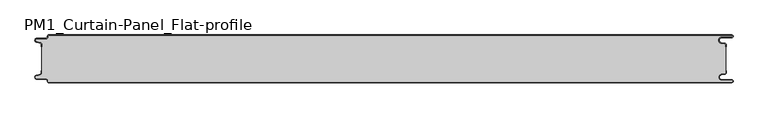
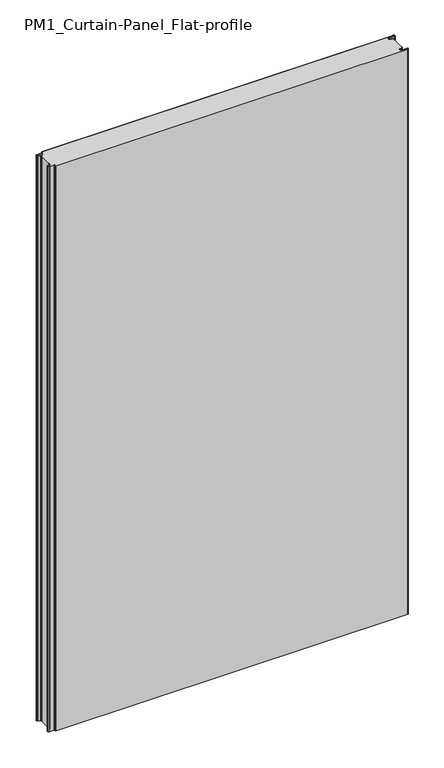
"""IFC4 building model written with IfcOpenShell, lengths in millimetres: plate geometry, PM1_Curtain-Panel_Flat-profile : ACH_PM1_Stone-wool-Panel_80M."""

from ifc_helpers import new_model, si_unit, point, frame_2d, origin, origin_with_axes, place, context, project, spatial, polyline, circle_curve, trimmed, segment, composite_curve, outline, extrude, source, transform, mapped, element, save


def pm1_curtain_panel_flat_profile_3b441832(model_context):
    return source(origin(), model_context, "Body", "SweptSolid", [
        extrude(outline(composite_curve([segment(polyline([(-562.4, 0.0), (583.1, 0.0)]), True, "CONTINUOUS"), segment(trimmed(circle_curve(frame_2d((583.1, -2.5)), 2.5), [point((583.1, 0.0))], [point((583.1, -5.0))], False, "CARTESIAN"), True, "CONTINUOUS"), segment(polyline([(583.1, -5.0), (566.1, -5.0)]), True, "CONTINUOUS"), segment(trimmed(circle_curve(frame_2d((566.1, -9.0)), 4.0), [point((566.1, -5.0))], [point((565.4054075, -12.939231))], True, "CARTESIAN"), True, "CONTINUOUS"), segment(polyline([(565.4054075, -12.939231), (571.8514851, -14.075848)]), True, "CONTINUOUS"), segment(trimmed(circle_curve(frame_2d((571.4, -16.636348)), 2.6), [point((571.8514851, -14.075848))], [point((574.0, -16.636348))], False, "CARTESIAN"), True, "CONTINUOUS"), segment(polyline([(574.0, -16.636348), (574.0, -20.0), (573.2, -20.0), (573.2, -16.636348)]), True, "CONTINUOUS"), segment(trimmed(circle_curve(frame_2d((571.4, -16.636348)), 1.8), [point((573.2, -16.636348))], [point((571.7125666, -14.863694))], True, "CARTESIAN"), True, "CONTINUOUS"), segment(polyline([(571.7125666, -14.863694), (565.266489, -13.7270771)]), True, "CONTINUOUS"), segment(trimmed(circle_curve(frame_2d((566.1, -9.0)), 4.8), [point((565.266489, -13.7270771))], [point((566.1, -4.2))], False, "CARTESIAN"), True, "CONTINUOUS"), segment(polyline([(566.1, -4.2), (583.1, -4.2)]), True, "CONTINUOUS"), segment(trimmed(circle_curve(frame_2d((583.1, -2.5)), 1.7), [point((583.1, -4.2))], [point((583.1, -0.8))], True, "CARTESIAN"), True, "CONTINUOUS"), segment(polyline([(583.1, -0.8), (-562.4, -0.8)]), True, "CONTINUOUS"), segment(trimmed(circle_curve(frame_2d((-562.4, -2.0)), 1.2), [point((-562.4, -0.8))], [point((-563.6, -2.0))], True, "CARTESIAN"), True, "CONTINUOUS"), segment(polyline([(-563.6, -2.0), (-563.6, -3.4)]), True, "CONTINUOUS"), segment(trimmed(circle_curve(frame_2d((-566.4, -3.4)), 2.8), [point((-563.6, -3.4))], [point((-566.4, -6.2))], False, "CARTESIAN"), True, "CONTINUOUS"), segment(polyline([(-566.4, -6.2), (-581.9, -6.2)]), True, "CONTINUOUS"), segment(trimmed(circle_curve(frame_2d((-581.9, -9.0)), 2.8), [point((-581.9, -6.2))], [point((-582.529863, -11.7282362))], True, "CARTESIAN"), True, "CONTINUOUS"), segment(polyline([(-582.529863, -11.7282362), (-576.370137, -13.150321)]), True, "CONTINUOUS"), segment(trimmed(circle_curve(frame_2d((-577.0, -15.878557)), 2.8), [point((-576.370137, -13.150321))], [point((-574.2, -15.878557))], False, "CARTESIAN"), True, "CONTINUOUS"), segment(polyline([(-574.2, -15.878557), (-574.2, -20.0), (-575.0, -20.0), (-575.0, -15.878557)]), True, "CONTINUOUS"), segment(trimmed(circle_curve(frame_2d((-577.0, -15.878557)), 2.0), [point((-575.0, -15.878557))], [point((-576.5500978, -13.9298169))], True, "CARTESIAN"), True, "CONTINUOUS"), segment(polyline([(-576.5500978, -13.9298169), (-582.7098239, -12.507732)]), True, "CONTINUOUS"), segment(trimmed(circle_curve(frame_2d((-581.9, -9.0)), 3.6), [point((-582.7098239, -12.507732))], [point((-581.9, -5.4))], False, "CARTESIAN"), True, "CONTINUOUS"), segment(polyline([(-581.9, -5.4), (-566.4, -5.4)]), True, "CONTINUOUS"), segment(trimmed(circle_curve(frame_2d((-566.4, -3.4)), 2.0), [point((-566.4, -5.4))], [point((-564.4, -3.4))], True, "CARTESIAN"), True, "CONTINUOUS"), segment(polyline([(-564.4, -3.4), (-564.4, -2.0)]), True, "CONTINUOUS"), segment(trimmed(circle_curve(frame_2d((-562.4, -2.0)), 2.0), [point((-564.4, -2.0))], [point((-562.4, 0.0))], False, "CARTESIAN"), True, "CONTINUOUS")], self_intersect=False)), origin_with_axes(), (0.0, 0.0, 1.0), 1945.7507136),
        extrude(outline(composite_curve([segment(polyline([(-574.2, -64.1214426), (-574.2, -15.8785573)]), True, "CONTINUOUS"), segment(trimmed(circle_curve(frame_2d((-577.0, -15.8785573)), 2.8), [point((-574.2, -15.8785573))], [point((-576.370137, -13.1503212))], True, "CARTESIAN"), True, "CONTINUOUS"), segment(polyline([(-576.370137, -13.1503212), (-582.5298631, -11.7282362)]), True, "CONTINUOUS"), segment(trimmed(circle_curve(frame_2d((-581.9, -9.0)), 2.8), [point((-582.5298631, -11.7282362))], [point((-581.9, -6.2))], False, "CARTESIAN"), True, "CONTINUOUS"), segment(polyline([(-581.9, -6.2), (-566.4000001, -6.2)]), True, "CONTINUOUS"), segment(trimmed(circle_curve(frame_2d((-566.4000001, -3.4)), 2.8), [point((-566.4000001, -6.2))], [point((-563.6000001, -3.4))], True, "CARTESIAN"), True, "CONTINUOUS"), segment(polyline([(-563.6000001, -3.4), (-563.6000001, -2.0)]), True, "CONTINUOUS"), segment(trimmed(circle_curve(frame_2d((-562.4000001, -2.0)), 1.2), [point((-563.6000001, -2.0))], [point((-562.4000001, -0.8))], False, "CARTESIAN"), True, "CONTINUOUS"), segment(polyline([(-562.4000001, -0.8), (583.1, -0.8)]), True, "CONTINUOUS"), segment(trimmed(circle_curve(frame_2d((583.1, -2.5)), 1.7), [point((583.1, -0.8))], [point((583.1, -4.2))], False, "CARTESIAN"), True, "CONTINUOUS"), segment(polyline([(583.1, -4.2), (566.1, -4.2)]), True, "CONTINUOUS"), segment(trimmed(circle_curve(frame_2d((566.1, -9.0)), 4.8), [point((566.1, -4.2))], [point((565.2664883, -13.7270771))], True, "CARTESIAN"), True, "CONTINUOUS"), segment(polyline([(565.2664883, -13.7270771), (571.7125668, -14.8636953)]), True, "CONTINUOUS"), segment(trimmed(circle_curve(frame_2d((571.4, -16.6363492)), 1.8), [point((571.7125668, -14.8636953))], [point((573.2, -16.6363492))], False, "CARTESIAN"), True, "CONTINUOUS"), segment(polyline([(573.2, -16.6363492), (573.2, -63.3636508)]), True, "CONTINUOUS"), segment(trimmed(circle_curve(frame_2d((571.4, -63.3636508)), 1.8), [point((573.2, -63.3636508))], [point((571.7125668, -65.1363047))], False, "CARTESIAN"), True, "CONTINUOUS"), segment(polyline([(571.7125668, -65.1363047), (565.2664883, -66.2729229)]), True, "CONTINUOUS"), segment(trimmed(circle_curve(frame_2d((566.1, -71.0)), 4.8), [point((565.2664883, -66.2729229))], [point((566.1, -75.8))], True, "CARTESIAN"), True, "CONTINUOUS"), segment(polyline([(566.1, -75.8), (583.1, -75.8)]), True, "CONTINUOUS"), segment(trimmed(circle_curve(frame_2d((583.1, -77.5)), 1.7), [point((583.1, -75.8))], [point((583.1, -79.2))], False, "CARTESIAN"), True, "CONTINUOUS"), segment(polyline([(583.1, -79.2), (-562.4000001, -79.2)]), True, "CONTINUOUS"), segment(trimmed(circle_curve(frame_2d((-562.4000001, -78.0)), 1.2), [point((-562.4000001, -79.2))], [point((-563.6000001, -78.0))], False, "CARTESIAN"), True, "CONTINUOUS"), segment(polyline([(-563.6000001, -78.0), (-563.6000001, -76.6)]), True, "CONTINUOUS"), segment(trimmed(circle_curve(frame_2d((-566.4000001, -76.6)), 2.8), [point((-563.6000001, -76.6))], [point((-566.4000001, -73.8))], True, "CARTESIAN"), True, "CONTINUOUS"), segment(polyline([(-566.4000001, -73.8), (-581.9, -73.8)]), True, "CONTINUOUS"), segment(trimmed(circle_curve(frame_2d((-581.9, -71.0)), 2.8), [point((-581.9, -73.8))], [point((-582.5298631, -68.2717638))], False, "CARTESIAN"), True, "CONTINUOUS"), segment(polyline([(-582.5298631, -68.2717638), (-576.370137, -66.8496788)]), True, "CONTINUOUS"), segment(trimmed(circle_curve(frame_2d((-577.0, -64.1214426)), 2.8), [point((-576.370137, -66.8496788))], [point((-574.2, -64.1214426))], True, "CARTESIAN"), True, "CONTINUOUS")], self_intersect=False)), origin_with_axes(), (0.0, 0.0, 1.0), 1945.7507136),
        extrude(outline(composite_curve([segment(polyline([(583.1, -80.0), (-562.4, -80.0)]), True, "CONTINUOUS"), segment(trimmed(circle_curve(frame_2d((-562.4, -78.0)), 2.0), [point((-562.4, -80.0))], [point((-564.4, -78.0))], False, "CARTESIAN"), True, "CONTINUOUS"), segment(polyline([(-564.4, -78.0), (-564.4, -76.6)]), True, "CONTINUOUS"), segment(trimmed(circle_curve(frame_2d((-566.4, -76.6)), 2.0), [point((-564.4, -76.6))], [point((-566.4, -74.6))], True, "CARTESIAN"), True, "CONTINUOUS"), segment(polyline([(-566.4, -74.6), (-581.9, -74.6)]), True, "CONTINUOUS"), segment(trimmed(circle_curve(frame_2d((-581.9, -71.0)), 3.6), [point((-581.9, -74.6))], [point((-582.7098239, -67.4922678))], False, "CARTESIAN"), True, "CONTINUOUS"), segment(polyline([(-582.7098239, -67.4922678), (-576.5500979, -66.070183)]), True, "CONTINUOUS"), segment(trimmed(circle_curve(frame_2d((-577.0, -64.121443)), 2.0), [point((-576.5500979, -66.070183))], [point((-575.0, -64.121443))], True, "CARTESIAN"), True, "CONTINUOUS"), segment(polyline([(-575.0, -64.121443), (-575.0, -60.0), (-574.2, -60.0), (-574.2, -64.121443)]), True, "CONTINUOUS"), segment(trimmed(circle_curve(frame_2d((-577.0, -64.121443)), 2.8), [point((-574.2, -64.121443))], [point((-576.370137, -66.8496792))], False, "CARTESIAN"), True, "CONTINUOUS"), segment(polyline([(-576.370137, -66.8496792), (-582.529863, -68.271764)]), True, "CONTINUOUS"), segment(trimmed(circle_curve(frame_2d((-581.9, -71.0)), 2.8), [point((-582.529863, -68.271764))], [point((-581.9, -73.8))], True, "CARTESIAN"), True, "CONTINUOUS"), segment(polyline([(-581.9, -73.8), (-566.4, -73.8)]), True, "CONTINUOUS"), segment(trimmed(circle_curve(frame_2d((-566.4, -76.6)), 2.8), [point((-566.4, -73.8))], [point((-563.6, -76.6))], False, "CARTESIAN"), True, "CONTINUOUS"), segment(polyline([(-563.6, -76.6), (-563.6, -78.0)]), True, "CONTINUOUS"), segment(trimmed(circle_curve(frame_2d((-562.4, -78.0)), 1.2), [point((-563.6, -78.0))], [point((-562.4, -79.2))], True, "CARTESIAN"), True, "CONTINUOUS"), segment(polyline([(-562.4, -79.2), (583.1, -79.2)]), True, "CONTINUOUS"), segment(trimmed(circle_curve(frame_2d((583.1, -77.5)), 1.7), [point((583.1, -79.2))], [point((583.1, -75.8))], True, "CARTESIAN"), True, "CONTINUOUS"), segment(polyline([(583.1, -75.8), (566.1, -75.8)]), True, "CONTINUOUS"), segment(trimmed(circle_curve(frame_2d((566.1, -71.0)), 4.8), [point((566.1, -75.8))], [point((565.266489, -66.2729227))], False, "CARTESIAN"), True, "CONTINUOUS"), segment(polyline([(565.266489, -66.2729227), (571.7125666, -65.1363058)]), True, "CONTINUOUS"), segment(trimmed(circle_curve(frame_2d((571.4, -63.363652)), 1.8), [point((571.7125666, -65.1363058))], [point((573.2, -63.363652))], True, "CARTESIAN"), True, "CONTINUOUS"), segment(polyline([(573.2, -63.363652), (573.2, -60.0), (574.0, -60.0), (574.0, -63.363652)]), True, "CONTINUOUS"), segment(trimmed(circle_curve(frame_2d((571.4, -63.363652)), 2.6), [point((574.0, -63.363652))], [point((571.8514851, -65.9241522))], False, "CARTESIAN"), True, "CONTINUOUS"), segment(polyline([(571.8514851, -65.9241522), (565.4054075, -67.0607691)]), True, "CONTINUOUS"), segment(trimmed(circle_curve(frame_2d((566.1, -71.0)), 4.0), [point((565.4054075, -67.0607691))], [point((566.1, -75.0))], True, "CARTESIAN"), True, "CONTINUOUS"), segment(polyline([(566.1, -75.0), (583.1, -75.0)]), True, "CONTINUOUS"), segment(trimmed(circle_curve(frame_2d((583.1, -77.5)), 2.5), [point((583.1, -75.0))], [point((583.1, -80.0))], False, "CARTESIAN"), True, "CONTINUOUS")], self_intersect=False)), origin_with_axes(), (0.0, 0.0, 1.0), 1945.7507136),
    ])


if __name__ == "__main__":
    model = new_model("IFC4")
    model_context = context("Model", 3, world=origin())
    ifc_project = project(units=[si_unit("LENGTHUNIT", "METRE", prefix="MILLI")], contexts=[model_context])
    site = spatial("IfcSite", under=ifc_project)
    building = spatial("IfcBuilding", under=site)
    placement = place(None, origin())
    pm1_curtain_panel_flat_profile_shape = pm1_curtain_panel_flat_profile_3b441832(model_context)
    element("IfcPlate", 1, ObjectType="PM1_Curtain-Panel_Flat-profile : ACH_PM1_Stone-wool-Panel_80M", at=placement, inside=building, context=model_context, shape_type="MappedRepresentation", body=[
        mapped(pm1_curtain_panel_flat_profile_shape, transform((0.0, 0.0, 0.0), x_axis=(1.0, 0.0, 0.0), y_axis=(0.0, 1.0, 0.0), z_axis=(0.0, 0.0, 1.0))),
    ])
    save(model, "model.ifc")
